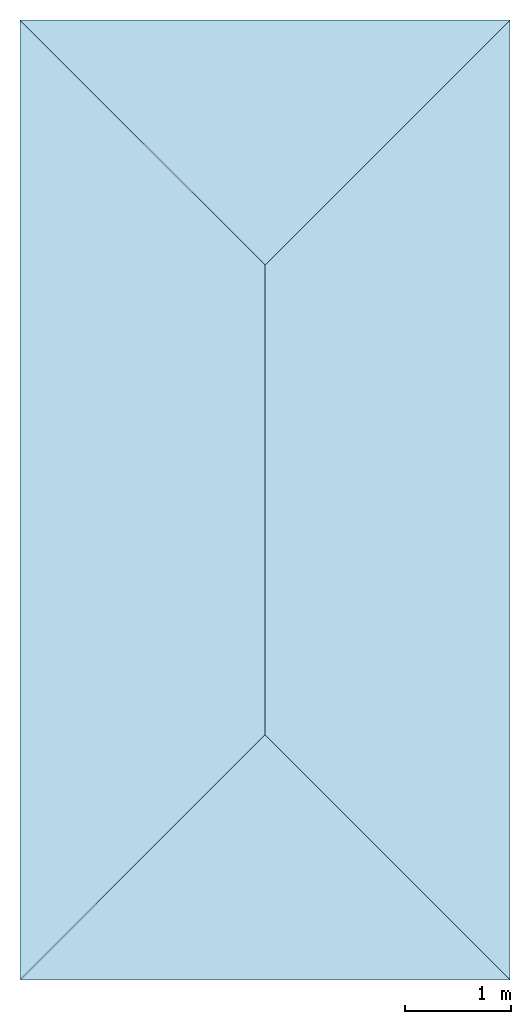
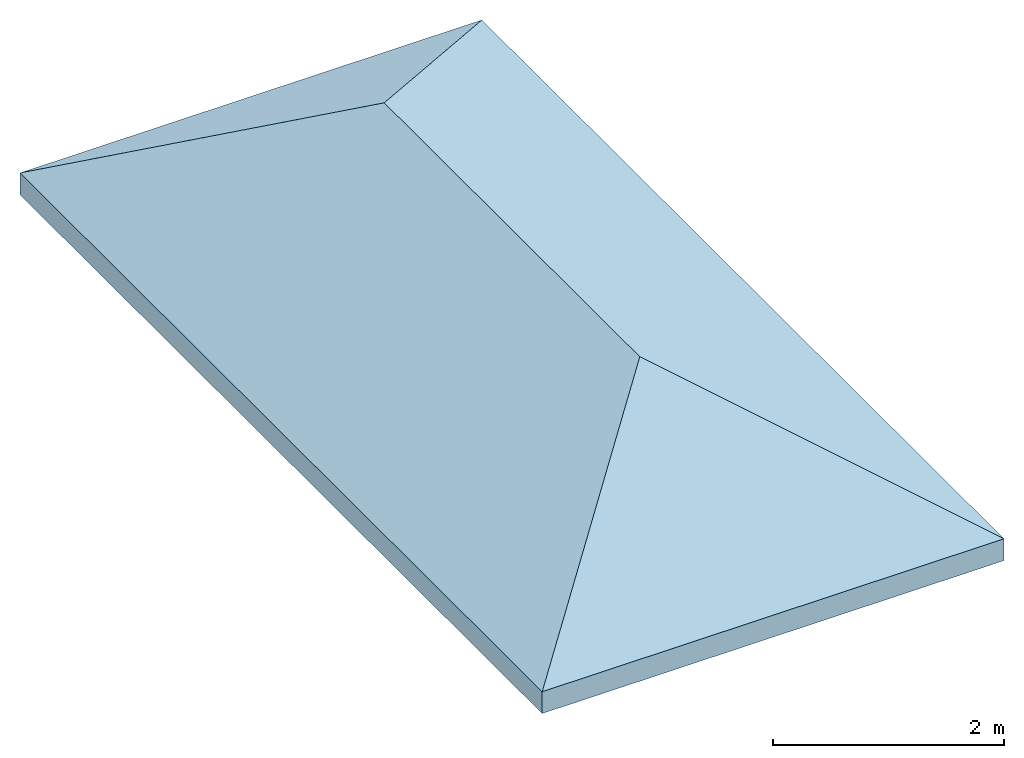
# One storey: 4 slabs, 1 element without a shape of its own.
"""IFC2X3 building model written with IfcOpenShell, lengths in metres."""

from ifc_helpers import new_model, entity, si_unit, converted_unit, derived_unit, direction, frame, origin, place, context, subcontext, project, spatial, polyline, outline, extrude, material, layer, layer_set, element, aggregate, save


model = new_model("IFC2X3")

# Units and contexts
model_context = context("Model", 3, precision=1e-05, world=origin(), true_north=direction((6.12303176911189e-17, 1.0)))
context_of_model = context(None, 3, precision=1e-05, world=origin(), true_north=direction((6.12303176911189e-17, 1.0)))
body_context = subcontext(model_context, "Body", "Model", "MODEL_VIEW")
ifc_project = project(units=[si_unit("LENGTHUNIT", "METRE"), si_unit("AREAUNIT", "SQUARE_METRE"), si_unit("VOLUMEUNIT", "CUBIC_METRE"), converted_unit("PLANEANGLEUNIT", "DEGREE", entity("IfcRatioMeasure", 0.0174532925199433), si_unit("PLANEANGLEUNIT", "RADIAN"), dimensions=[0, 0, 0, 0, 0, 0, 0]), si_unit("MASSUNIT", "GRAM", prefix="KILO"), si_unit("TIMEUNIT", "SECOND"), si_unit("FREQUENCYUNIT", "HERTZ"), si_unit("THERMODYNAMICTEMPERATUREUNIT", "DEGREE_CELSIUS"), derived_unit("THERMALTRANSMITTANCEUNIT", [(si_unit("MASSUNIT", "GRAM", prefix="KILO"), 1), (si_unit("THERMODYNAMICTEMPERATUREUNIT", "KELVIN"), -1), (si_unit("TIMEUNIT", "SECOND"), -3)]), derived_unit("VOLUMETRICFLOWRATEUNIT", [(si_unit("LENGTHUNIT", "METRE"), 3), (si_unit("TIMEUNIT", "SECOND"), -1)]), si_unit("ELECTRICCURRENTUNIT", "AMPERE"), si_unit("ELECTRICVOLTAGEUNIT", "VOLT"), si_unit("POWERUNIT", "WATT"), si_unit("FORCEUNIT", "NEWTON", prefix="KILO"), si_unit("ILLUMINANCEUNIT", "LUX"), si_unit("LUMINOUSFLUXUNIT", "LUMEN"), si_unit("LUMINOUSINTENSITYUNIT", "CANDELA"), si_unit("PRESSUREUNIT", "PASCAL")], contexts=[model_context, context_of_model])

# Site, building, storey
site_placement = place(None, origin())
site = spatial("IfcSite", under=ifc_project, at=site_placement, Name="Default", CompositionType="ELEMENT")
building_placement = place(site_placement, origin())
building = spatial("IfcBuilding", under=site, at=building_placement, CompositionType="ELEMENT")
storey_placement = place(building_placement, frame((0.0, 0.0, 6.0)))
storey = spatial("IfcBuildingStorey", under=building, at=storey_placement, Name="Niveau 2", CompositionType="ELEMENT", Elevation=5.99999999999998)

# Roof, slabs
roof_placement = place(storey_placement, frame((-6.23815113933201, -3.52461312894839, -0.173205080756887)))
roof = element("IfcRoof", 1, at=roof_placement, inside=storey, Name="Toit de base:Toit - 200 mm", ObjectType="Toit de base:Toit - 200 mm", ShapeType="NOTDEFINED")
ifc_material = material(Name="Toit par défaut")
ifc_layer = layer(ifc_material, 0.2)
ifc_layer_set = layer_set([ifc_layer], Name="Toit de base:Toit - 200 mm")
slab_1_placement = place(roof_placement, origin())
slab_1 = element("IfcSlab", 2, at=slab_1_placement, material=ifc_layer_set, Name="Toit de base:Toit - 200 mm", ObjectType="Toit de base:Toit - 200 mm", PredefinedType="ROOF", context=body_context, shape_type="SweptSolid", body=[
    extrude(outline(polyline([(2.3078626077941, 1.3324450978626), (-2.3078626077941, 1.33244509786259), (0.0, -1.33244509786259), (2.3078626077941, 1.3324450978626)])), frame((2.3078626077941, 7.88606869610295, 0.666222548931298), z_axis=(0.0, 0.500000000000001, 0.866025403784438), x_axis=(1.0, 0.0, 0.0)), (0.0, -0.500000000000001, 0.866025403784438), 0.23094010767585),
])
slab_2_placement = place(roof_placement, origin())
slab_2 = element("IfcSlab", 3, at=slab_2_placement, material=ifc_layer_set, Name="Toit de base:Toit - 200 mm", ObjectType="Toit de base:Toit - 200 mm", PredefinedType="ROOF", context=body_context, shape_type="SweptSolid", body=[
    extrude(outline(polyline([(-1.3324450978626, 2.2121373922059), (-1.3324450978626, -2.2121373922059), (1.3324450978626, -4.52), (1.3324450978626, 4.52), (-1.3324450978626, 2.2121373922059)])), frame((3.46179391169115, 4.52, 0.666222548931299), z_axis=(0.5, 0.0, 0.866025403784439), x_axis=(0.866025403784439, 0.0, -0.5)), (-0.5, 0.0, 0.866025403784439), 0.23094010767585),
])
slab_3_placement = place(roof_placement, origin())
slab_3 = element("IfcSlab", 4, at=slab_3_placement, material=ifc_layer_set, Name="Toit de base:Toit - 200 mm", ObjectType="Toit de base:Toit - 200 mm", PredefinedType="ROOF", context=body_context, shape_type="SweptSolid", body=[
    extrude(outline(polyline([(-2.3078626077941, -1.3324450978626), (2.3078626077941, -1.3324450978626), (0.0, 1.3324450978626), (-2.3078626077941, -1.3324450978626)])), frame((2.3078626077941, 1.15393130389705, 0.666222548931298), z_axis=(0.0, -0.5, 0.866025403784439), x_axis=(1.0, 0.0, 0.0)), (0.0, 0.5, 0.866025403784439), 0.23094010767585),
])
slab_4_placement = place(roof_placement, origin())
slab_4 = element("IfcSlab", 5, at=slab_4_placement, material=ifc_layer_set, Name="Toit de base:Toit - 200 mm", ObjectType="Toit de base:Toit - 200 mm", PredefinedType="ROOF", context=body_context, shape_type="SweptSolid", body=[
    extrude(outline(polyline([(-1.3324450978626, 4.52), (-1.3324450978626, -4.52), (1.3324450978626, -2.2121373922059), (1.3324450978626, 2.2121373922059), (-1.3324450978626, 4.52)])), frame((1.15393130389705, 4.52, 0.666222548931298), z_axis=(-0.500000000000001, 0.0, 0.866025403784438), x_axis=(0.866025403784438, 0.0, 0.500000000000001)), (0.500000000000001, 0.0, 0.866025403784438), 0.23094010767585),
])
aggregate(roof, [slab_1, slab_2, slab_3, slab_4])

save(model, "model.ifc")
